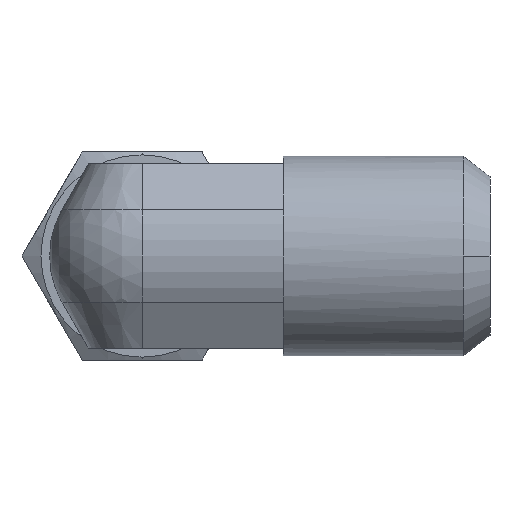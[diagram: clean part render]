
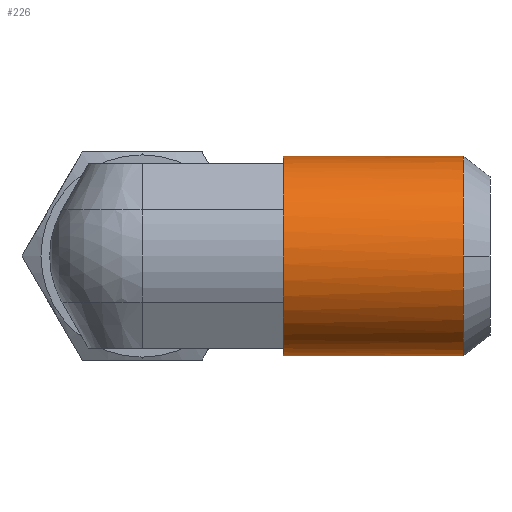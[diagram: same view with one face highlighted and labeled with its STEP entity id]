
A CAD part, left-side view. The second image highlights one B-rep face of the part: STEP entity #226.
In plain terms, the highlighted cylindrical face has radius 6.85 mm (diameter 13.7 mm), a partial arc.
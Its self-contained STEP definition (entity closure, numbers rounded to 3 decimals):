
#85 = VERTEX_POINT ( 'NONE', #907 ) ;
#87 = EDGE_CURVE ( 'NONE', #88, #85, #906, .T. ) ;
#88 = VERTEX_POINT ( 'NONE', #902 ) ;
#133 = EDGE_CURVE ( 'NONE', #141, #134, #838, .T. ) ;
#134 = VERTEX_POINT ( 'NONE', #804 ) ;
#138 = VERTEX_POINT ( 'NONE', #798 ) ;
#140 = EDGE_CURVE ( 'NONE', #138, #141, #797, .T. ) ;
#141 = VERTEX_POINT ( 'NONE', #792 ) ;
#226 = ADVANCED_FACE ( 'NONE', ( #1148 ), #1144, .T. ) ;
#344 = VERTEX_POINT ( 'NONE', #1266 ) ;
#345 = ORIENTED_EDGE ( 'NONE', *, *, #346, .T. ) ;
#346 = EDGE_CURVE ( 'NONE', #344, #347, #1265, .T. ) ;
#347 = VERTEX_POINT ( 'NONE', #1400 ) ;
#348 = ORIENTED_EDGE ( 'NONE', *, *, #349, .T. ) ;
#349 = EDGE_CURVE ( 'NONE', #347, #380, #1399, .T. ) ;
#359 = EDGE_CURVE ( 'NONE', #383, #134, #1380, .T. ) ;
#373 = EDGE_LOOP ( 'NONE', ( #419, #420, #421, #423, #424, #345, #348, #381, #384 ) ) ;
#380 = VERTEX_POINT ( 'NONE', #1280 ) ;
#381 = ORIENTED_EDGE ( 'NONE', *, *, #382, .T. ) ;
#382 = EDGE_CURVE ( 'NONE', #380, #383, #1371, .T. ) ;
#383 = VERTEX_POINT ( 'NONE', #1366 ) ;
#384 = ORIENTED_EDGE ( 'NONE', *, *, #359, .T. ) ;
#419 = ORIENTED_EDGE ( 'NONE', *, *, #133, .F. ) ;
#420 = ORIENTED_EDGE ( 'NONE', *, *, #140, .F. ) ;
#421 = ORIENTED_EDGE ( 'NONE', *, *, #422, .F. ) ;
#422 = EDGE_CURVE ( 'NONE', #88, #138, #1412, .T. ) ;
#423 = ORIENTED_EDGE ( 'NONE', *, *, #87, .T. ) ;
#424 = ORIENTED_EDGE ( 'NONE', *, *, #425, .T. ) ;
#425 = EDGE_CURVE ( 'NONE', #85, #344, #1565, .T. ) ;
#792 = CARTESIAN_POINT ( 'NONE',  ( 0., -22.075, -6.85 ) ) ;
#793 = DIRECTION ( 'NONE',  ( -1., 0., 0. ) ) ;
#794 = DIRECTION ( 'NONE',  ( 0., -1., 0. ) ) ;
#795 = CARTESIAN_POINT ( 'NONE',  ( 0., -22.075, 0. ) ) ;
#796 = AXIS2_PLACEMENT_3D ( 'NONE', #795, #794, #793 ) ;
#797 = CIRCLE ( 'NONE', #796, 6.85 ) ;
#798 = CARTESIAN_POINT ( 'NONE',  ( -6.85, -22.075, 0. ) ) ;
#804 = CARTESIAN_POINT ( 'NONE',  ( 0., -9.7, -6.85 ) ) ;
#805 = DIRECTION ( 'NONE',  ( 0., 1., 0. ) ) ;
#806 = VECTOR ( 'NONE', #805, 1000. ) ;
#837 = CARTESIAN_POINT ( 'NONE',  ( 0., -23.9, -6.85 ) ) ;
#838 = LINE ( 'NONE', #837, #806 ) ;
#902 = CARTESIAN_POINT ( 'NONE',  ( 0., -22.075, 6.85 ) ) ;
#903 = DIRECTION ( 'NONE',  ( 0., 1., 0. ) ) ;
#904 = VECTOR ( 'NONE', #903, 1000. ) ;
#905 = CARTESIAN_POINT ( 'NONE',  ( 0., -23.9, 6.85 ) ) ;
#906 = LINE ( 'NONE', #905, #904 ) ;
#907 = CARTESIAN_POINT ( 'NONE',  ( 0., -9.7, 6.85 ) ) ;
#1141 = DIRECTION ( 'NONE',  ( 0., 1., 0. ) ) ;
#1142 = CARTESIAN_POINT ( 'NONE',  ( 0., -23.9, 0. ) ) ;
#1143 = AXIS2_PLACEMENT_3D ( 'NONE', #1142, #1141, #1218 ) ;
#1144 = CYLINDRICAL_SURFACE ( 'NONE', #1143, 6.85 ) ;
#1148 = FACE_OUTER_BOUND ( 'NONE', #373, .T. ) ;
#1218 = DIRECTION ( 'NONE',  ( 0., 0., 1. ) ) ;
#1265 = CIRCLE ( 'NONE', #1404, 6.85 ) ;
#1266 = CARTESIAN_POINT ( 'NONE',  ( -2.569, -9.7, 6.35 ) ) ;
#1280 = CARTESIAN_POINT ( 'NONE',  ( -4.215, -9.7, -5.4 ) ) ;
#1366 = CARTESIAN_POINT ( 'NONE',  ( -2.569, -9.7, -6.35 ) ) ;
#1367 = DIRECTION ( 'NONE',  ( 0., 0., -1. ) ) ;
#1368 = DIRECTION ( 'NONE',  ( 0., -1., 0. ) ) ;
#1369 = CARTESIAN_POINT ( 'NONE',  ( 0., -9.7, 0. ) ) ;
#1370 = AXIS2_PLACEMENT_3D ( 'NONE', #1369, #1368, #1367 ) ;
#1371 = CIRCLE ( 'NONE', #1370, 6.85 ) ;
#1376 = DIRECTION ( 'NONE',  ( 0., 0., -1. ) ) ;
#1377 = DIRECTION ( 'NONE',  ( 0., -1., 0. ) ) ;
#1378 = CARTESIAN_POINT ( 'NONE',  ( 0., -9.7, 0. ) ) ;
#1379 = AXIS2_PLACEMENT_3D ( 'NONE', #1378, #1377, #1376 ) ;
#1380 = CIRCLE ( 'NONE', #1379, 6.85 ) ;
#1395 = DIRECTION ( 'NONE',  ( 0., 0., -1. ) ) ;
#1396 = DIRECTION ( 'NONE',  ( 0., -1., 0. ) ) ;
#1397 = CARTESIAN_POINT ( 'NONE',  ( 0., -9.7, 0. ) ) ;
#1398 = AXIS2_PLACEMENT_3D ( 'NONE', #1397, #1396, #1395 ) ;
#1399 = CIRCLE ( 'NONE', #1398, 6.85 ) ;
#1400 = CARTESIAN_POINT ( 'NONE',  ( -4.215, -9.7, 5.4 ) ) ;
#1401 = DIRECTION ( 'NONE',  ( 0., 0., -1. ) ) ;
#1402 = DIRECTION ( 'NONE',  ( 0., -1., 0. ) ) ;
#1403 = CARTESIAN_POINT ( 'NONE',  ( 0., -9.7, 0. ) ) ;
#1404 = AXIS2_PLACEMENT_3D ( 'NONE', #1403, #1402, #1401 ) ;
#1405 = DIRECTION ( 'NONE',  ( -1., 0., 0. ) ) ;
#1406 = DIRECTION ( 'NONE',  ( 0., -1., 0. ) ) ;
#1407 = CARTESIAN_POINT ( 'NONE',  ( 0., -22.075, 0. ) ) ;
#1408 = AXIS2_PLACEMENT_3D ( 'NONE', #1407, #1406, #1405 ) ;
#1412 = CIRCLE ( 'NONE', #1408, 6.85 ) ;
#1562 = DIRECTION ( 'NONE',  ( 0., -1., 0. ) ) ;
#1563 = CARTESIAN_POINT ( 'NONE',  ( 0., -9.7, 0. ) ) ;
#1564 = AXIS2_PLACEMENT_3D ( 'NONE', #1563, #1562, #1707 ) ;
#1565 = CIRCLE ( 'NONE', #1564, 6.85 ) ;
#1707 = DIRECTION ( 'NONE',  ( 0., 0., -1. ) ) ;
